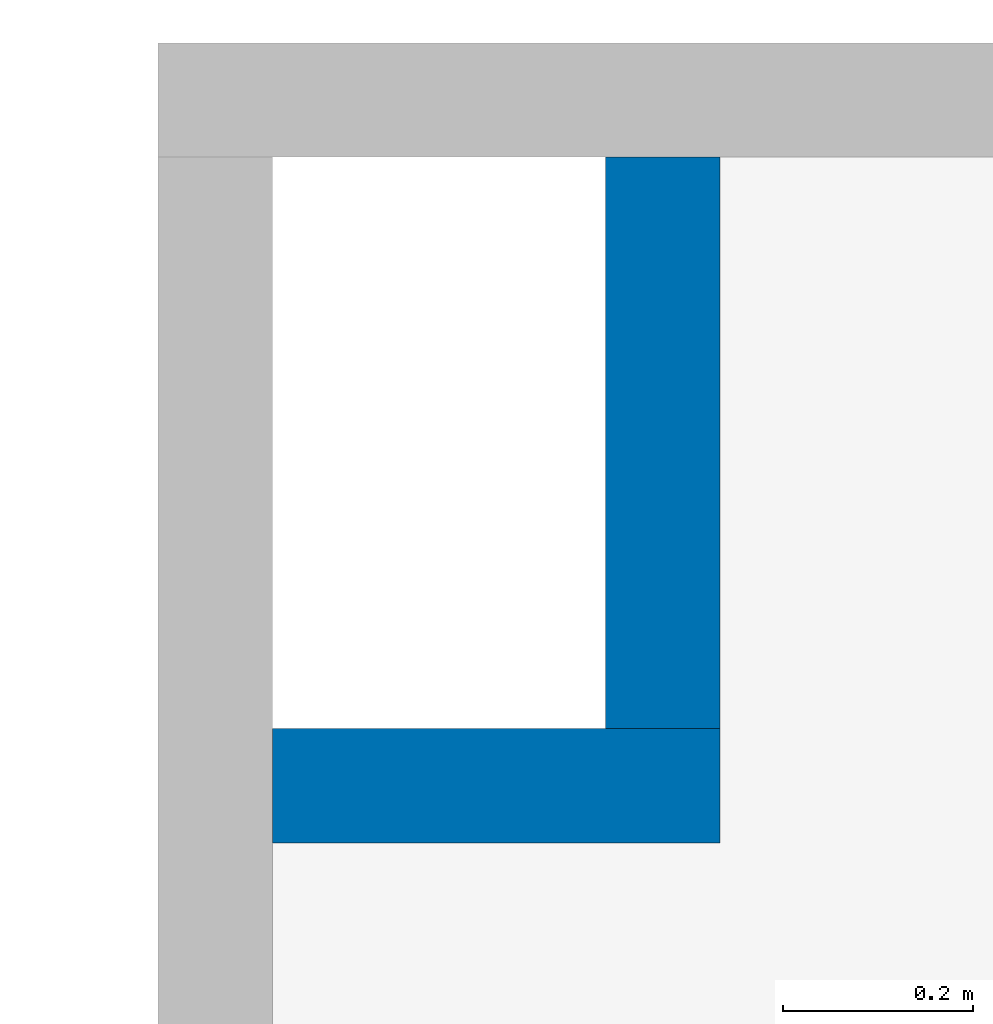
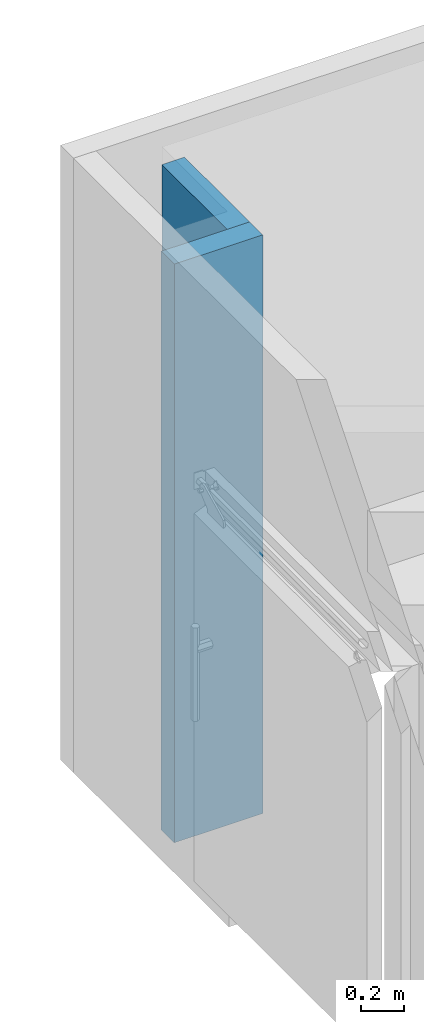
# One storey, part 33 of 652: 2 walls.
"""IFC2X3 building model written with IfcOpenShell, lengths in millimetres."""

from ifc_helpers import new_model, entity, si_unit, converted_unit, direction, frame, frame_2d, origin, place, context, subcontext, project, spatial, rectangle, extrude, material, layer, layer_set, layer_usage, type_object, element, save


model = new_model("IFC2X3")

# Units and contexts
model_context = context("Model", 3, precision=0.01, world=frame((0.0, 0.0, 308426.39999999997)), true_north=direction((6.123233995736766e-17, 1.0)))
plan_context = context("Plan", 3, precision=0.01, world=frame((0.0, 0.0, 308426.39999999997)), true_north=direction((6.123233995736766e-17, 1.0)))
body_context = subcontext(model_context, "Body", "Model", "MODEL_VIEW")
ifc_project = project(units=[si_unit("LENGTHUNIT", "METRE", prefix="MILLI"), si_unit("AREAUNIT", "SQUARE_METRE"), si_unit("VOLUMEUNIT", "CUBIC_METRE"), converted_unit("PLANEANGLEUNIT", "DEGREE", entity("IfcPlaneAngleMeasure", 0.017453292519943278), si_unit("PLANEANGLEUNIT", "RADIAN"), dimensions=[0, 0, 0, 0, 0, 0, 0])], contexts=[model_context, plan_context])

# Site, building, storey
site_placement = place(None, origin())
site = spatial("IfcSite", under=ifc_project, at=site_placement, Name="Default", CompositionType="ELEMENT")
building_placement = place(site_placement, origin())
building = spatial("IfcBuilding", under=site, at=building_placement, CompositionType="ELEMENT")
storey_placement = place(building_placement, frame((0.0, 0.0, 1730.6999999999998)))
storey = spatial("IfcBuildingStorey", under=building, at=storey_placement, Name="EG_Produktion_FFB", CompositionType="ELEMENT", Elevation=1730.6999999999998)

# Walls
ifc_material = material(Name="GPG_Paneelwand")
ifc_layer = layer(ifc_material, 120.0)
ifc_layer_set = layer_set([ifc_layer], Name="Basiswand:Kühlzellen Paneelwand 120")
ifc_layer_usage_1 = layer_usage(ifc_layer_set, "AXIS2", "NEGATIVE", 60.0)
wall_type = type_object("IfcWallType", Name="Basiswand:Kühlzellen Paneelwand 120", PredefinedType="STANDARD", material=ifc_layer_set)
wall_1_placement = place(storey_placement, frame((43940.0, 71570.0, -250.0), z_axis=(0.0, 0.0, 1.0), x_axis=(-1.0, 0.0, 0.0)))
element("IfcWallStandardCase", 1, at=wall_1_placement, inside=storey, type_object=wall_type, material=ifc_layer_usage_1, Name="Basiswand:Kühlzellen Paneelwand 120", ObjectType="Basiswand:Kühlzellen Paneelwand 120", context=body_context, shape_type="SweptSolid", body=[
    extrude(rectangle(XDim=469.99999999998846, YDim=120.00000000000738, at=frame_2d((234.99999999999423, 5.790923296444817e-13), x_axis=(-1.0, 0.0))), origin(), (0.0, 0.0, 1.0), 3249.9999999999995),
])
ifc_layer_usage_2 = layer_usage(ifc_layer_set, "AXIS2", "NEGATIVE", 60.0)
wall_2_placement = place(storey_placement, frame((43880.0, 72230.0, -250.0), z_axis=(0.0, 0.0, 1.0), x_axis=(0.0, -1.0, 0.0)))
element("IfcWallStandardCase", 2, at=wall_2_placement, inside=storey, type_object=wall_type, material=ifc_layer_usage_2, Name="Basiswand:Kühlzellen Paneelwand 120", ObjectType="Basiswand:Kühlzellen Paneelwand 120", context=body_context, shape_type="SweptSolid", body=[
    extrude(rectangle(XDim=600.0000000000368, YDim=120.00000000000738, at=frame_2d((300.0000000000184, 2.4868995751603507e-12), x_axis=(-1.0, 0.0))), origin(), (0.0, 0.0, 1.0), 3249.9999999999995),
])

save(model, "model.ifc")
